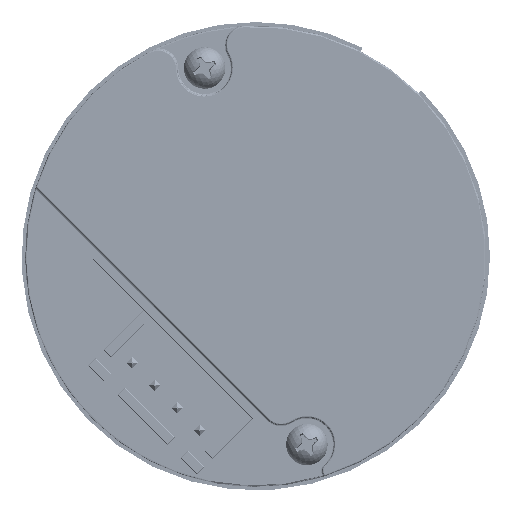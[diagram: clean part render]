
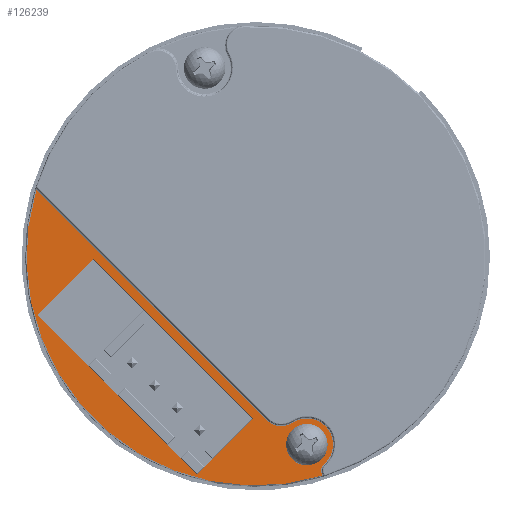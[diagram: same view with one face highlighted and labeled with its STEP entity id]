
A CAD part, front view. The second image highlights one B-rep face of the part: STEP entity #126239.
In plain terms, the highlighted planar face has unit normal (0, -1, 0) as drawn and (0, 0, 1) by its records, which use the part's own axes.
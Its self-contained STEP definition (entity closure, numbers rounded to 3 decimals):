
#80 = CIRCLE ( 'NONE', #39001, 1.5 ) ;
#728 = VERTEX_POINT ( 'NONE', #81204 ) ;
#2100 = FACE_BOUND ( 'NONE', #38640, .T. ) ;
#4937 = CARTESIAN_POINT ( 'NONE',  ( 16.193, -8.633, -6.45 ) ) ;
#8015 = VERTEX_POINT ( 'NONE', #99849 ) ;
#10795 = ORIENTED_EDGE ( 'NONE', *, *, #67626, .T. ) ;
#11120 = DIRECTION ( 'NONE',  ( 1., 0., 0. ) ) ;
#11449 = AXIS2_PLACEMENT_3D ( 'NONE', #125348, #31387, #126342 ) ;
#11582 = EDGE_CURVE ( 'NONE', #728, #25427, #13011, .T. ) ;
#11951 = VECTOR ( 'NONE', #53020, 1000. ) ;
#12544 = CARTESIAN_POINT ( 'NONE',  ( 9.02, -9.35, -6.45 ) ) ;
#13011 = LINE ( 'NONE', #74565, #99410 ) ;
#15501 = DIRECTION ( 'NONE',  ( -1., 0., 0. ) ) ;
#16884 = VERTEX_POINT ( 'NONE', #23979 ) ;
#17730 = DIRECTION ( 'NONE',  ( 1., 0., 0. ) ) ;
#17897 = EDGE_CURVE ( 'NONE', #67355, #8015, #89254, .T. ) ;
#21309 = ORIENTED_EDGE ( 'NONE', *, *, #11582, .T. ) ;
#22463 = CARTESIAN_POINT ( 'NONE',  ( 13.55, -7.761, -6.45 ) ) ;
#23027 = DIRECTION ( 'NONE',  ( 0., -1., 0. ) ) ;
#23930 = EDGE_CURVE ( 'NONE', #88246, #34919, #150670, .T. ) ;
#23979 = CARTESIAN_POINT ( 'NONE',  ( 13.55, -9.261, -6.45 ) ) ;
#25134 = LINE ( 'NONE', #108471, #137220 ) ;
#25427 = VERTEX_POINT ( 'NONE', #116767 ) ;
#27087 = CARTESIAN_POINT ( 'NONE',  ( 13.55, -6.261, -6.45 ) ) ;
#27317 = CARTESIAN_POINT ( 'NONE',  ( 0., 0., -6.45 ) ) ;
#28465 = CARTESIAN_POINT ( 'NONE',  ( -9.02, -15.69, -6.45 ) ) ;
#29988 = AXIS2_PLACEMENT_3D ( 'NONE', #152186, #70118, #11120 ) ;
#31387 = DIRECTION ( 'NONE',  ( 0., 0., -1. ) ) ;
#31572 = CARTESIAN_POINT ( 'NONE',  ( -9.02, -9.35, -6.45 ) ) ;
#33293 = FACE_BOUND ( 'NONE', #88255, .T. ) ;
#34919 = VERTEX_POINT ( 'NONE', #135809 ) ;
#35008 = VERTEX_POINT ( 'NONE', #102005 ) ;
#35166 = ORIENTED_EDGE ( 'NONE', *, *, #17897, .T. ) ;
#36017 = ORIENTED_EDGE ( 'NONE', *, *, #142160, .T. ) ;
#36348 = ORIENTED_EDGE ( 'NONE', *, *, #94024, .T. ) ;
#38640 = EDGE_LOOP ( 'NONE', ( #151979, #91645 ) ) ;
#39001 = AXIS2_PLACEMENT_3D ( 'NONE', #22463, #83634, #46611 ) ;
#43429 = LINE ( 'NONE', #94983, #120638 ) ;
#44067 = VERTEX_POINT ( 'NONE', #28465 ) ;
#45074 = EDGE_CURVE ( 'NONE', #25427, #67355, #62438, .T. ) ;
#45323 = CIRCLE ( 'NONE', #29988, 1.629 ) ;
#46611 = DIRECTION ( 'NONE',  ( 0., -1., 0. ) ) ;
#47589 = EDGE_CURVE ( 'NONE', #44067, #147931, #25134, .T. ) ;
#48042 = FACE_OUTER_BOUND ( 'NONE', #60582, .T. ) ;
#53020 = DIRECTION ( 'NONE',  ( -1., 0., 0. ) ) ;
#53862 = DIRECTION ( 'NONE',  ( 0., 0., 1. ) ) ;
#55681 = CARTESIAN_POINT ( 'NONE',  ( 13.55, -7.761, -6.45 ) ) ;
#56686 = DIRECTION ( 'NONE',  ( 0., 0., 1. ) ) ;
#58860 = AXIS2_PLACEMENT_3D ( 'NONE', #112289, #110768, #17730 ) ;
#60582 = EDGE_LOOP ( 'NONE', ( #35166, #10795, #129777, #127079, #21309, #113803 ) ) ;
#62438 = CIRCLE ( 'NONE', #108447, 18.35 ) ;
#63787 = DIRECTION ( 'NONE',  ( 1., 0., 0. ) ) ;
#64886 = VERTEX_POINT ( 'NONE', #27087 ) ;
#67355 = VERTEX_POINT ( 'NONE', #4937 ) ;
#67626 = EDGE_CURVE ( 'NONE', #8015, #88246, #149605, .T. ) ;
#69670 = VERTEX_POINT ( 'NONE', #12544 ) ;
#70118 = DIRECTION ( 'NONE',  ( 0., 0., -1. ) ) ;
#72307 = EDGE_CURVE ( 'NONE', #16884, #64886, #80, .T. ) ;
#73673 = AXIS2_PLACEMENT_3D ( 'NONE', #55681, #136771, #113825 ) ;
#74565 = CARTESIAN_POINT ( 'NONE',  ( -16.349, -8.65, -6.45 ) ) ;
#75486 = CARTESIAN_POINT ( 'NONE',  ( 0., 0., -6.45 ) ) ;
#80353 = DIRECTION ( 'NONE',  ( 1., 0., 0. ) ) ;
#80704 = ORIENTED_EDGE ( 'NONE', *, *, #145569, .T. ) ;
#81204 = CARTESIAN_POINT ( 'NONE',  ( 9.905, -8.65, -6.45 ) ) ;
#83634 = DIRECTION ( 'NONE',  ( 0., 0., 1. ) ) ;
#85441 = DIRECTION ( 'NONE',  ( 0., 0., 1. ) ) ;
#87256 = LINE ( 'NONE', #145893, #92721 ) ;
#88246 = VERTEX_POINT ( 'NONE', #92162 ) ;
#88255 = EDGE_LOOP ( 'NONE', ( #36348, #107704, #80704, #36017 ) ) ;
#88997 = DIRECTION ( 'NONE',  ( 1., 0., 0. ) ) ;
#89254 = CIRCLE ( 'NONE', #11449, 0.715 ) ;
#90562 = EDGE_CURVE ( 'NONE', #34919, #728, #45323, .T. ) ;
#90969 = CIRCLE ( 'NONE', #73673, 1.5 ) ;
#91645 = ORIENTED_EDGE ( 'NONE', *, *, #93688, .F. ) ;
#92162 = CARTESIAN_POINT ( 'NONE',  ( 15.64, -7.761, -6.45 ) ) ;
#92721 = VECTOR ( 'NONE', #88997, 1000. ) ;
#93688 = EDGE_CURVE ( 'NONE', #64886, #16884, #90969, .T. ) ;
#94024 = EDGE_CURVE ( 'NONE', #35008, #44067, #105732, .T. ) ;
#94983 = CARTESIAN_POINT ( 'NONE',  ( 9.02, -15.67, -6.45 ) ) ;
#99410 = VECTOR ( 'NONE', #15501, 1000. ) ;
#99849 = CARTESIAN_POINT ( 'NONE',  ( 15.636, -7.891, -6.45 ) ) ;
#102005 = CARTESIAN_POINT ( 'NONE',  ( 9.02, -15.69, -6.45 ) ) ;
#102188 = DIRECTION ( 'NONE',  ( 0., -1., 0. ) ) ;
#105732 = LINE ( 'NONE', #147436, #11951 ) ;
#107704 = ORIENTED_EDGE ( 'NONE', *, *, #47589, .T. ) ;
#108447 = AXIS2_PLACEMENT_3D ( 'NONE', #27317, #85441, #63787 ) ;
#108471 = CARTESIAN_POINT ( 'NONE',  ( -9.02, -9.37, -6.45 ) ) ;
#110768 = DIRECTION ( 'NONE',  ( 0., 0., 1. ) ) ;
#112289 = CARTESIAN_POINT ( 'NONE',  ( 13.55, -7.761, -6.45 ) ) ;
#113803 = ORIENTED_EDGE ( 'NONE', *, *, #45074, .T. ) ;
#113825 = DIRECTION ( 'NONE',  ( 0., -1., 0. ) ) ;
#116767 = CARTESIAN_POINT ( 'NONE',  ( -16.183, -8.65, -6.45 ) ) ;
#120638 = VECTOR ( 'NONE', #23027, 1000. ) ;
#125348 = CARTESIAN_POINT ( 'NONE',  ( 16.349, -7.935, -6.45 ) ) ;
#126239 = ADVANCED_FACE ( 'NONE', ( #48042, #33293, #2100 ), #145731, .T. ) ;
#126342 = DIRECTION ( 'NONE',  ( 1., 0., 0. ) ) ;
#127032 = CARTESIAN_POINT ( 'NONE',  ( 13.55, -7.761, -6.45 ) ) ;
#127079 = ORIENTED_EDGE ( 'NONE', *, *, #90562, .T. ) ;
#129777 = ORIENTED_EDGE ( 'NONE', *, *, #23930, .T. ) ;
#131924 = AXIS2_PLACEMENT_3D ( 'NONE', #127032, #56686, #80353 ) ;
#135809 = CARTESIAN_POINT ( 'NONE',  ( 11.502, -7.345, -6.45 ) ) ;
#136771 = DIRECTION ( 'NONE',  ( 0., 0., 1. ) ) ;
#137220 = VECTOR ( 'NONE', #143219, 1000. ) ;
#142160 = EDGE_CURVE ( 'NONE', #69670, #35008, #43429, .T. ) ;
#143219 = DIRECTION ( 'NONE',  ( 0., 1., 0. ) ) ;
#145569 = EDGE_CURVE ( 'NONE', #147931, #69670, #87256, .T. ) ;
#145731 = PLANE ( 'NONE',  #150187 ) ;
#145893 = CARTESIAN_POINT ( 'NONE',  ( 9., -9.35, -6.45 ) ) ;
#147436 = CARTESIAN_POINT ( 'NONE',  ( -9., -15.69, -6.45 ) ) ;
#147931 = VERTEX_POINT ( 'NONE', #31572 ) ;
#149605 = CIRCLE ( 'NONE', #131924, 2.09 ) ;
#150187 = AXIS2_PLACEMENT_3D ( 'NONE', #75486, #53862, #102188 ) ;
#150670 = CIRCLE ( 'NONE', #58860, 2.09 ) ;
#151979 = ORIENTED_EDGE ( 'NONE', *, *, #72307, .F. ) ;
#152186 = CARTESIAN_POINT ( 'NONE',  ( 9.905, -7.021, -6.45 ) ) ;
